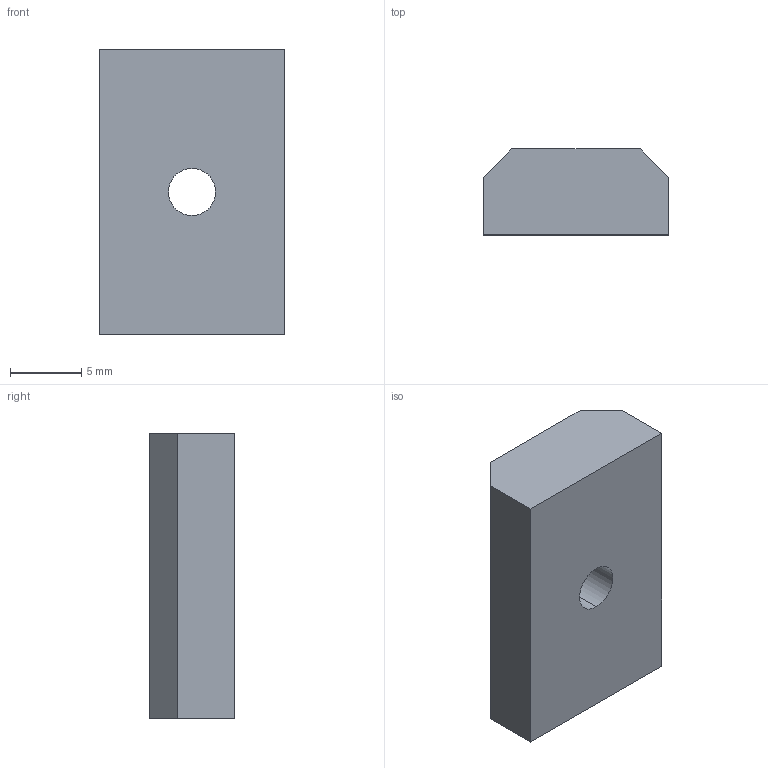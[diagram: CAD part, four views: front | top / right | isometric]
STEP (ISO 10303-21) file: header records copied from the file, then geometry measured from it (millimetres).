
FILE_DESCRIPTION (( 'STEP AP214' ), '1' );
FILE_NAME ('115.302.008.STEP', '2020-11-11T09:30:48', ( '' ), ( '' ), 'SwSTEP 2.0', 'SolidWorks 2018', '' );
FILE_SCHEMA (( 'AUTOMOTIVE_DESIGN' ));
Length unit declared in the file: millimetre
Products named in the file (1): 115.302.008
Bounding box: 13 x 6 x 20 mm (x, y, z)
Volume: 1428.7 mm3; surface area: 906.2 mm2
Topology: 1 solids, 1 shells, 10 faces, 24 edges, 16 vertices
Faces by surface type: plane 8, cylinder 2
Entity records: 352 total; most frequent: CARTESIAN_POINT 51, DIRECTION 50, ORIENTED_EDGE 48, EDGE_CURVE 24, LINE 20, VECTOR 20, VERTEX_POINT 16, AXIS2_PLACEMENT_3D 15
